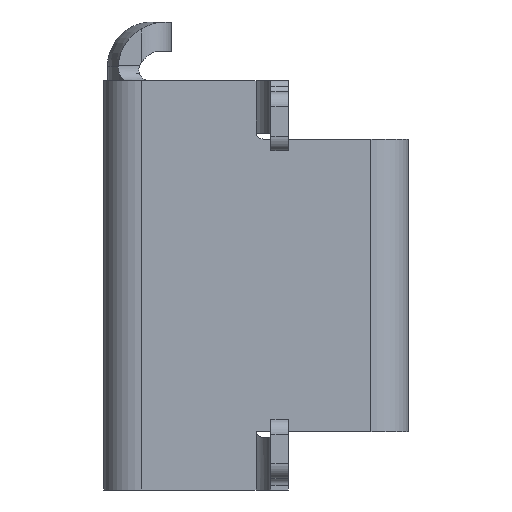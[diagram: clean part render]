
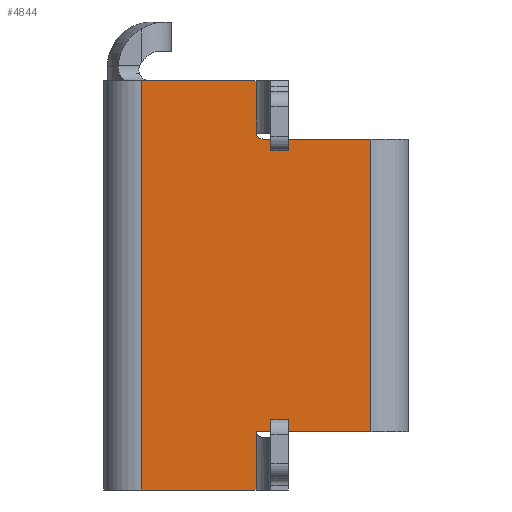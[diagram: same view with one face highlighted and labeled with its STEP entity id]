
A CAD part, front view. The second image highlights one B-rep face of the part: STEP entity #4844.
In plain terms, the highlighted planar face has unit normal (0, -1, 0).
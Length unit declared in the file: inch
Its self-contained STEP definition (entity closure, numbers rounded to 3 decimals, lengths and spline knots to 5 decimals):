
#289=PLANE('',#5230);
#451=FACE_OUTER_BOUND('',#724,.T.);
#724=EDGE_LOOP('',(#3739,#3740,#3741,#3742,#3743,#3744,#3745,#3746,#3747));
#959=LINE('',#6642,#1417);
#990=LINE('',#6748,#1448);
#1044=LINE('',#6952,#1502);
#1119=LINE('',#7383,#1577);
#1131=LINE('',#7423,#1589);
#1132=LINE('',#7426,#1590);
#1133=LINE('',#7428,#1591);
#1134=LINE('',#7429,#1592);
#1417=VECTOR('',#5496,0.3937);
#1448=VECTOR('',#5605,0.3937);
#1502=VECTOR('',#5781,0.3937);
#1577=VECTOR('',#5894,0.3937);
#1589=VECTOR('',#5938,0.3937);
#1590=VECTOR('',#5941,0.3937);
#1591=VECTOR('',#5942,0.3937);
#1592=VECTOR('',#5943,0.3937);
#1873=CIRCLE('',#5126,0.005);
#2007=VERTEX_POINT('',#6608);
#2011=VERTEX_POINT('',#6639);
#2040=VERTEX_POINT('',#6726);
#2041=VERTEX_POINT('',#6727);
#2047=VERTEX_POINT('',#6746);
#2136=VERTEX_POINT('',#6950);
#2261=VERTEX_POINT('',#7382);
#2274=VERTEX_POINT('',#7425);
#2275=VERTEX_POINT('',#7427);
#2524=EDGE_CURVE('',#2011,#2007,#959,.T.);
#2565=EDGE_CURVE('',#2040,#2041,#1873,.F.);
#2576=EDGE_CURVE('',#2041,#2047,#990,.T.);
#2676=EDGE_CURVE('',#2007,#2136,#1044,.T.);
#2813=EDGE_CURVE('',#2261,#2040,#1119,.T.);
#2835=EDGE_CURVE('',#2261,#2136,#1131,.T.);
#2836=EDGE_CURVE('',#2274,#2047,#1132,.T.);
#2837=EDGE_CURVE('',#2275,#2274,#1133,.T.);
#2838=EDGE_CURVE('',#2011,#2275,#1134,.T.);
#3739=ORIENTED_EDGE('',*,*,#2676,.T.);
#3740=ORIENTED_EDGE('',*,*,#2835,.F.);
#3741=ORIENTED_EDGE('',*,*,#2813,.T.);
#3742=ORIENTED_EDGE('',*,*,#2565,.T.);
#3743=ORIENTED_EDGE('',*,*,#2576,.T.);
#3744=ORIENTED_EDGE('',*,*,#2836,.F.);
#3745=ORIENTED_EDGE('',*,*,#2837,.F.);
#3746=ORIENTED_EDGE('',*,*,#2838,.F.);
#3747=ORIENTED_EDGE('',*,*,#2524,.T.);
#4844=ADVANCED_FACE('',(#451),#289,.T.);
#5126=AXIS2_PLACEMENT_3D('',#6728,#5583,#5584);
#5230=AXIS2_PLACEMENT_3D('',#7424,#5939,#5940);
#5496=DIRECTION('',(0.,0.,1.));
#5583=DIRECTION('center_axis',(0.,-1.,0.));
#5584=DIRECTION('ref_axis',(-0.977,0.,-0.213));
#5605=DIRECTION('',(0.,0.,1.));
#5781=DIRECTION('',(1.,0.,0.));
#5894=DIRECTION('',(-1.,0.,0.));
#5938=DIRECTION('',(0.,0.,-1.));
#5939=DIRECTION('center_axis',(0.,-1.,0.));
#5940=DIRECTION('ref_axis',(1.,0.,0.));
#5941=DIRECTION('',(1.,0.,0.));
#5942=DIRECTION('',(0.,0.,1.));
#5943=DIRECTION('',(-1.,0.,0.));
#6608=CARTESIAN_POINT('',(0.,0.04345,-0.09843));
#6639=CARTESIAN_POINT('',(0.,0.04345,-0.1378));
#6642=CARTESIAN_POINT('',(0.,0.04345,-0.05906));
#6726=CARTESIAN_POINT('',(0.00489,0.04345,0.09843));
#6727=CARTESIAN_POINT('',(0.,0.04345,0.10236));
#6728=CARTESIAN_POINT('Origin',(0.00489,0.04345,
0.10343));
#6746=CARTESIAN_POINT('',(0.,0.04345,0.1378));
#6748=CARTESIAN_POINT('',(0.,0.04345,0.05906));
#6950=CARTESIAN_POINT('',(0.07736,0.04345,-0.09843));
#6952=CARTESIAN_POINT('',(-0.05118,0.04345,-0.09843));
#7382=CARTESIAN_POINT('',(0.07736,0.04345,0.09843));
#7383=CARTESIAN_POINT('',(-0.05118,0.04345,0.09843));
#7423=CARTESIAN_POINT('',(0.07736,0.04345,0.));
#7424=CARTESIAN_POINT('Origin',(-0.10236,0.04345,0.));
#7425=CARTESIAN_POINT('',(-0.07736,0.04345,0.1378));
#7426=CARTESIAN_POINT('',(-0.10236,0.04345,0.1378));
#7427=CARTESIAN_POINT('',(-0.07736,0.04345,-0.1378));
#7428=CARTESIAN_POINT('',(-0.07736,0.04345,0.));
#7429=CARTESIAN_POINT('',(-0.10236,0.04345,-0.1378));
